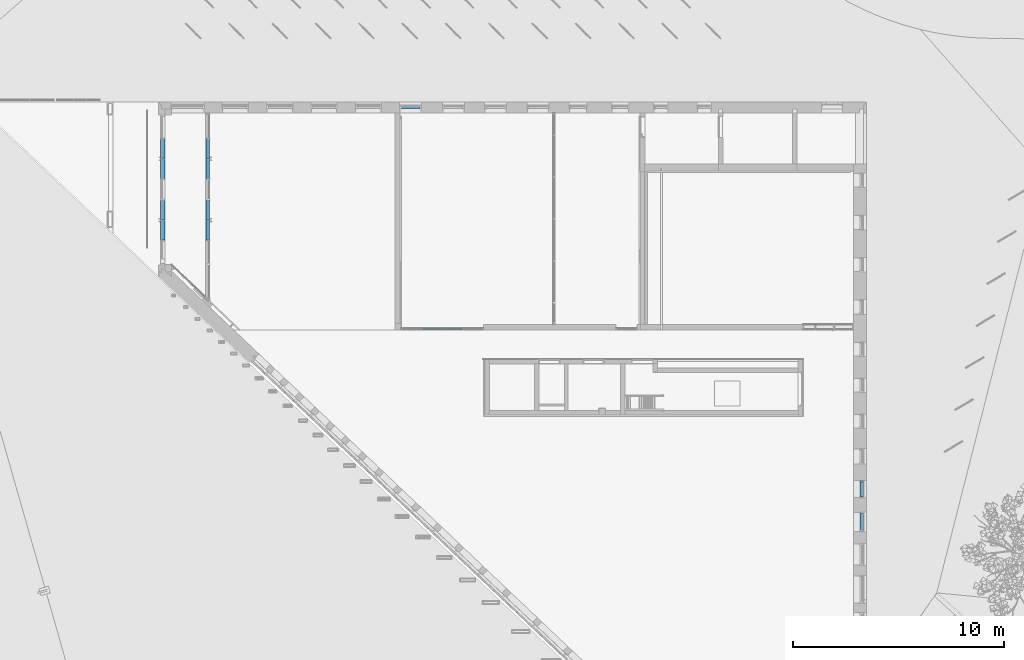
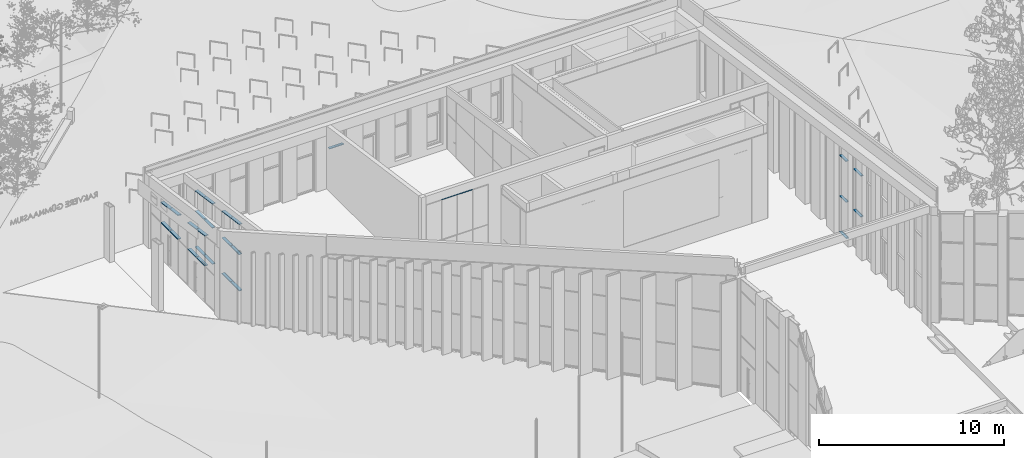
# One storey, part 36 of 246: 28 members, 6 elements without a shape of their own.
"""IFC2X3 building model written with IfcOpenShell, lengths in millimetres."""

import ifcopenshell
import ifcopenshell.guid

model = None  # the IFC model being written
_history = None  # IfcOwnerHistory: only IFC2X3 demands one
_inside = {}  # id of a spatial element -> (the spatial element, [elements in it])
_under = {}  # id of a project, library or spatial element -> (it, [spatial elements below it])
_declared = {}  # id of a project -> (the project, [libraries it declares])
_typed = {}  # id of a type object -> (the type object, [elements of that type])
_made_of = {}  # id of a material, layer set ... -> (it, [elements and type objects made of it])


def new_model(schema):
    """Start an empty IFC model of exactly this schema.

    Asked for "IFC4X3", IfcOpenShell would pick the latest addendum, in which some entities
    have other attributes; the version numbers below select the first issue.
    IFC2X3 requires an IfcOwnerHistory on every rooted entity: one is made here for all.
    """
    global model, _history
    if schema == "IFC4X3":
        model = ifcopenshell.file(schema_version=(4, 3, 0, 0))
    else:
        model = ifcopenshell.file(schema=schema)
    _inside.clear()
    _under.clear()
    _declared.clear()
    _typed.clear()
    _made_of.clear()
    _history = None
    if model.schema == "IFC2X3":
        org = make("IfcOrganization", Name="unknown")
        user = make(
            "IfcPersonAndOrganization",
            ThePerson=make("IfcPerson", FamilyName="unknown"),
            TheOrganization=org,
        )
        app = make(
            "IfcApplication",
            ApplicationDeveloper=org,
            Version="unknown",
            ApplicationFullName="unknown",
            ApplicationIdentifier="unknown",
        )
        _history = make(
            "IfcOwnerHistory",
            OwningUser=user,
            OwningApplication=app,
            ChangeAction="ADDED",
            CreationDate=0,
        )
    return model


def make(cls, **values):
    """One entity of the class cls with the attributes given. An attribute that is None is left unset."""
    return model.create_entity(
        cls, **{name: value for name, value in values.items() if value is not None}
    )


def entity(cls, *values):
    """Any entity or typed value of the class cls, its attributes in the order of the schema. None: left unset."""
    e = model.create_entity(cls)
    for i, value in enumerate(values):
        if value is not None:
            e[i] = value
    return e


def rooted(cls, **values):
    """An entity with a GlobalId (a new one), such as an element, a storey or a relation."""
    return make(cls, GlobalId=ifcopenshell.guid.new(), OwnerHistory=_history, **values)


def si_unit(unit_type, name, prefix=None):
    """IfcSIUnit, for example si_unit("LENGTHUNIT", "METRE", prefix="MILLI")."""
    return make("IfcSIUnit", UnitType=unit_type, Prefix=prefix, Name=name)


def converted_unit(unit_type, name, factor, base, dimensions=None, offset=None):
    """IfcConversionBasedUnit, such as the inch: factor (a typed value) times the base unit."""
    return make(
        "IfcConversionBasedUnit"
        if offset is None
        else "IfcConversionBasedUnitWithOffset",
        ConversionOffset=offset,
        Dimensions=None
        if dimensions is None
        else entity("IfcDimensionalExponents", *dimensions),
        UnitType=unit_type,
        Name=name,
        ConversionFactor=make(
            "IfcMeasureWithUnit", ValueComponent=factor, UnitComponent=base
        ),
    )


def derived_unit(unit_type, elements):
    """IfcDerivedUnit: a product of units, each with its exponent."""
    return make(
        "IfcDerivedUnit",
        Elements=[
            make("IfcDerivedUnitElement", Unit=unit, Exponent=power)
            for unit, power in elements
        ],
        UnitType=unit_type,
    )


def money_unit(currency):
    """IfcMonetaryUnit."""
    return make("IfcMonetaryUnit", Currency=currency)


def assignment(units):
    """IfcUnitAssignment: the units of a project."""
    return None if units is None else make("IfcUnitAssignment", Units=units)


def point(xyz):
    """IfcCartesianPoint."""
    return None if xyz is None else make("IfcCartesianPoint", Coordinates=xyz)


def direction(xyz):
    """IfcDirection."""
    return None if xyz is None else make("IfcDirection", DirectionRatios=xyz)


def frame(location, z_axis=None, x_axis=None):
    """IfcAxis2Placement3D, a coordinate frame: its origin and axes. An axis left out is left unset."""
    return make(
        "IfcAxis2Placement3D",
        Location=point(location),
        Axis=direction(z_axis),
        RefDirection=direction(x_axis),
    )


def origin_with_axes():
    """The frame at (0, 0, 0) with the z axis (0, 0, 1) and the x axis (1, 0, 0) written out."""
    return frame((0.0, 0.0, 0.0), z_axis=(0.0, 0.0, 1.0), x_axis=(1.0, 0.0, 0.0))


def place(relative_to, where):
    """IfcLocalPlacement: puts the frame where relative to a parent placement (None: the world)."""
    return make(
        "IfcLocalPlacement", PlacementRelTo=relative_to, RelativePlacement=where
    )


def context(
    kind, dimensions, precision=None, world=None, true_north=None, identifier=None
):
    """IfcGeometricRepresentationContext, for example the 3D "Model" context."""
    return make(
        "IfcGeometricRepresentationContext",
        ContextIdentifier=identifier,
        ContextType=kind,
        CoordinateSpaceDimension=dimensions,
        Precision=precision,
        WorldCoordinateSystem=world,
        TrueNorth=true_north,
    )


def subcontext(parent, identifier, kind, view, scale=None):
    """IfcGeometricRepresentationSubContext, for example "Body" below "Model"."""
    return make(
        "IfcGeometricRepresentationSubContext",
        ContextIdentifier=identifier,
        ContextType=kind,
        ParentContext=parent,
        TargetScale=scale,
        TargetView=view,
    )


def project(units=None, contexts=None):
    """IfcProject with its units and contexts."""
    return rooted(
        "IfcProject",
        Name="project",
        RepresentationContexts=contexts,
        UnitsInContext=assignment(units),
    )


def spatial(cls, under=None, at=None, **own):
    """A site, building, storey or space (cls), placed at a placement, below another one or the project."""
    s = rooted(cls, ObjectPlacement=at, **own)
    if under is not None:
        _under.setdefault(under.id(), (under, []))[1].append(s)
    return s


def faces_of(points, faces, orient=None, outer=None):
    """IfcFace entities. A face is a list of loops; a loop is a list of indices into points, from 0.

    orient and outer hold one flag for each loop. By default every Orientation is true, the
    first loop of a face is its IfcFaceOuterBound and the others are IfcFaceBound.
    """
    made = []
    for i, loops in enumerate(faces):
        bounds = []
        for j, loop in enumerate(loops):
            is_outer = j == 0 if outer is None else outer[i][j]
            bounds.append(
                make(
                    "IfcFaceOuterBound" if is_outer else "IfcFaceBound",
                    Bound=make("IfcPolyLoop", Polygon=[points[k] for k in loop]),
                    Orientation=True if orient is None else orient[i][j],
                )
            )
        made.append(make("IfcFace", Bounds=bounds))
    return made


def faceted_brep(points, faces, orient=None, outer=None, voids=None):
    """IfcFacetedBrep: a solid bounded by flat faces; with voids (closed shells), ...WithVoids."""
    shared = [point(p) for p in points]
    hull = make("IfcClosedShell", CfsFaces=faces_of(shared, faces, orient, outer))
    if voids is None:
        return make("IfcFacetedBrep", Outer=hull)
    return make(
        "IfcFacetedBrepWithVoids",
        Outer=hull,
        Voids=[
            make(cls, CfsFaces=faces_of(shared, fs, o, b)) for cls, fs, o, b in voids
        ],
    )


def shape(context_of_items, identifier, shape_type, items):
    """IfcShapeRepresentation: the items that make up one representation, for example the "Body"."""
    return make(
        "IfcShapeRepresentation",
        ContextOfItems=context_of_items,
        RepresentationIdentifier=identifier,
        RepresentationType=shape_type,
        Items=items,
    )


def source(mapping_origin, context_of_items, identifier, shape_type, items):
    """IfcRepresentationMap: a shape defined once, which mapped items show again and again."""
    return make(
        "IfcRepresentationMap",
        MappingOrigin=mapping_origin,
        MappedRepresentation=shape(context_of_items, identifier, shape_type, items),
    )


def transform(
    local_origin,
    x_axis=None,
    y_axis=None,
    z_axis=None,
    scale=None,
    scale2=None,
    scale3=None,
    uniform=True,
):
    """IfcCartesianTransformationOperator3D, or its non-uniform kind. x_axis, y_axis, z_axis: its Axis1, 2, 3."""
    if uniform:
        return make(
            "IfcCartesianTransformationOperator3D",
            Axis1=direction(x_axis),
            Axis2=direction(y_axis),
            LocalOrigin=point(local_origin),
            Scale=scale,
            Axis3=direction(z_axis),
        )
    return make(
        "IfcCartesianTransformationOperator3DnonUniform",
        Axis1=direction(x_axis),
        Axis2=direction(y_axis),
        LocalOrigin=point(local_origin),
        Scale=scale,
        Axis3=direction(z_axis),
        Scale2=scale2,
        Scale3=scale3,
    )


def mapped(mapping_source, mapping_target):
    """IfcMappedItem: shows the shape of a source again, moved by a transform."""
    return make(
        "IfcMappedItem", MappingSource=mapping_source, MappingTarget=mapping_target
    )


def material(Name=None, Category=None):
    """IfcMaterial."""
    return make("IfcMaterial", Name=Name, Category=Category)


def material_list(materials):
    """IfcMaterialList."""
    return make("IfcMaterialList", Materials=materials)


def made_of(thing, what):
    """Note that an element or type object is made of a material, layer set ...; save() writes the relation."""
    if what is not None:
        _made_of.setdefault(what.id(), (what, []))[1].append(thing)
    return thing


def type_object(cls, material=None, **own):
    """A type object (cls), such as IfcWallType, which elements share."""
    return made_of(rooted(cls, **own), material)


def element(
    cls,
    number,
    at=None,
    inside=None,
    cuts=None,
    type_object=None,
    material=None,
    context=None,
    identifier="Body",
    shape_type=None,
    held_by="IfcProductDefinitionShape",
    body=None,
    shapes=None,
    **own,
):
    """One element of the class cls, such as IfcWall. Its Tag is "e" and its number.

    at: its placement. inside: the storey or other place that contains it. cuts: it is an
    opening in that element (IfcRelVoidsElement). A single representation is given by context,
    identifier, shape_type and body (its items); several are given by shapes. held_by: the class
    of the entity that holds the representations. save() writes the other relations.
    """
    e = rooted(cls, Tag="e%d" % number, ObjectPlacement=at, **own)
    if body is not None:
        shapes = [shape(context, identifier, shape_type, body)]
    if shapes is not None:
        e.Representation = make(held_by, Representations=shapes)
    if inside is not None:
        _inside.setdefault(inside.id(), (inside, []))[1].append(e)
    if cuts is not None:
        rooted(
            "IfcRelVoidsElement", RelatingBuildingElement=cuts, RelatedOpeningElement=e
        )
    if type_object is not None:
        _typed.setdefault(type_object.id(), (type_object, []))[1].append(e)
    return made_of(e, material)


def aggregate(whole, parts):
    """IfcRelAggregates: a whole, such as a stair, and the parts it consists of."""
    return rooted("IfcRelAggregates", RelatingObject=whole, RelatedObjects=parts)


def save(model, path):
    """Write the relations noted so far, then the file.

    IfcRelAggregates (storeys below a building ...), IfcRelContainedInSpatialStructure (elements
    in a storey), IfcRelDefinesByType, IfcRelAssociatesMaterial and IfcRelDeclares: one each for
    every whole, place, type object, material and project.
    """
    for whole, parts in _under.values():
        aggregate(whole, parts)
    for where, things in _inside.values():
        rooted(
            "IfcRelContainedInSpatialStructure",
            RelatedElements=things,
            RelatingStructure=where,
        )
    for kind, things in _typed.values():
        rooted("IfcRelDefinesByType", RelatedObjects=things, RelatingType=kind)
    for what, things in _made_of.values():
        rooted("IfcRelAssociatesMaterial", RelatedObjects=things, RelatingMaterial=what)
    for by, libraries in _declared.values():
        rooted("IfcRelDeclares", RelatingContext=by, RelatedDefinitions=libraries)
    model.write(path)


model = new_model("IFC2X3")

# Units and contexts
model_context = context("Model", 3, precision=0.01, world=origin_with_axes(), true_north=direction((0.0, 1.0)))
body_context = subcontext(model_context, "Body", "Model", "MODEL_VIEW")
ifc_project = project(units=[si_unit("LENGTHUNIT", "METRE", prefix="MILLI"), si_unit("AREAUNIT", "SQUARE_METRE"), si_unit("VOLUMEUNIT", "CUBIC_METRE"), converted_unit("PLANEANGLEUNIT", "DEGREE", entity("IfcPlaneAngleMeasure", 0.0174532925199), si_unit("PLANEANGLEUNIT", "RADIAN"), dimensions=[0, 0, 0, 0, 0, 0, 0]), si_unit("SOLIDANGLEUNIT", "STERADIAN"), money_unit("EUR"), converted_unit("TIMEUNIT", "Year", entity("IfcTimeMeasure", 31556926.0), si_unit("TIMEUNIT", "SECOND"), dimensions=[0, 0, 1, 0, 0, 0, 0]), si_unit("MASSUNIT", "GRAM", prefix="KILO"), si_unit("THERMODYNAMICTEMPERATUREUNIT", "DEGREE_CELSIUS"), si_unit("LUMINOUSINTENSITYUNIT", "LUMEN"), si_unit("ENERGYUNIT", "JOULE", prefix="MEGA"), derived_unit("THERMALCONDUCTANCEUNIT", [(si_unit("POWERUNIT", "WATT"), 1), (si_unit("LENGTHUNIT", "METRE"), -1), (si_unit("THERMODYNAMICTEMPERATUREUNIT", "KELVIN"), -1)]), derived_unit("SPECIFICHEATCAPACITYUNIT", [(si_unit("ENERGYUNIT", "JOULE"), 1), (si_unit("MASSUNIT", "GRAM", prefix="KILO"), -1), (si_unit("THERMODYNAMICTEMPERATUREUNIT", "KELVIN"), -1)]), derived_unit("MASSDENSITYUNIT", [(si_unit("MASSUNIT", "GRAM", prefix="KILO"), 1), (si_unit("VOLUMEUNIT", "CUBIC_METRE"), -1)])], contexts=[model_context])

# Site, building, storey
site_placement = place(None, origin_with_axes())
site = spatial("IfcSite", under=ifc_project, at=site_placement, Name="L.Koidula tn 11b", CompositionType="ELEMENT")
building_placement = place(site_placement, origin_with_axes())
building = spatial("IfcBuilding", under=site, at=building_placement, Name="Rakvere Riigigümnaasium", CompositionType="ELEMENT")
storey_placement = place(building_placement, origin_with_axes())
storey = spatial("IfcBuildingStorey", under=building, at=storey_placement, Name="1.korrus 0,00", CompositionType="ELEMENT", Elevation=0.0)

# Curtain wall, members
curtain_wall_type = type_object("IfcCurtainWallType", Name="Curtain Wall Type", PredefinedType="NOTDEFINED")
curtain_wall_1_placement = place(storey_placement, frame((47433.9999935, 53800.4459212, -2.62174737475e-05), z_axis=(0.0, 0.0, 1.0), x_axis=(1.0, 0.0, 0.0)))
curtain_wall_1 = element("IfcCurtainWall", 1, at=curtain_wall_1_placement, inside=storey, type_object=curtain_wall_type, Name="KLF-07-06")
ifc_material_1 = material(Name="Alumiiniumprofiil (RAL 7021)")
member_type_1 = type_object("IfcMemberType", Name="Transom Frame 50 x 170", PredefinedType="MULLION")
shared_shape_1 = source(origin_with_axes(), body_context, "Body", "Brep", [
    faceted_brep([(12.0, -26.0, 750.000123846), (12.0, 26.0, 750.000123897), (25.0, 26.0, 750.000123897), (25.0, 46.0, 750.000123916), (-25.0, 46.0, 750.000123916), (-25.0, 26.0, 750.000123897), (-12.0, 26.0, 750.000123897), (-12.0, -26.0, 750.000123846), (-25.0, -26.0, 750.000123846), (-25.0, -124.0, 750.000123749), (25.0, -124.0, 750.000123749), (25.0, -26.0, 750.000123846), (12.0, -26.0, 50.0), (12.0, 26.0, 50.0), (25.0, 26.0, 50.0), (25.0, 46.0, 50.0), (-25.0, 46.0, 50.0), (-25.0, 26.0, 50.0), (-12.0, 26.0, 50.0), (-12.0, -26.0, 50.0), (-25.0, -26.0, 50.0), (-25.0, -124.0, 50.0), (25.0, -124.0, 50.0), (25.0, -26.0, 50.0)], [[[0, 1, 2, 3, 4, 5, 6, 7, 8, 9, 10, 11]], [[0, 12, 13, 1]], [[1, 13, 14, 2]], [[14, 15, 3, 2]], [[4, 3, 15, 16]], [[17, 5, 4, 16]], [[5, 17, 18, 6]], [[7, 6, 18, 19]], [[8, 7, 19, 20]], [[8, 20, 21, 9]], [[10, 9, 21, 22]], [[11, 10, 22, 23]], [[11, 23, 12, 0]], [[13, 12, 23, 22, 21, 20, 19, 18, 17, 16, 15, 14]]]),
])
member_1_placement = place(curtain_wall_1_placement, frame((0.0, 399.99989685, 5100.00002622), z_axis=(0.0, -1.0, 0.0), x_axis=(0.0, 0.0, 1.0)))
member_1 = element("IfcMember", 2, at=member_1_placement, type_object=member_type_1, material=ifc_material_1, Name="KLF-07-20-Profiilid", ObjectType="MULLION", context=body_context, shape_type="MappedRepresentation", body=[
    mapped(shared_shape_1, transform((0.0, 0.0, 0.0), x_axis=(-1.0, 0.0, 0.0), y_axis=(0.0, -1.0, 0.0), z_axis=(0.0, 0.0, 1.0))),
])
member_2_placement = place(curtain_wall_1_placement, frame((0.0, 399.999988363, 2400.00002622), z_axis=(0.0, -1.0, 0.0), x_axis=(0.0, 0.0, 1.0)))
member_2 = element("IfcMember", 3, at=member_2_placement, type_object=member_type_1, material=ifc_material_1, Name="KLF-07-21-Profiilid", ObjectType="MULLION", context=body_context, shape_type="MappedRepresentation", body=[
    mapped(shared_shape_1, transform((0.0, 0.0, 0.0), x_axis=(-1.0, 0.0, 0.0), y_axis=(0.0, -1.0, 0.0), z_axis=(0.0, 0.0, 1.0))),
])
member_type_2 = type_object("IfcMemberType", Name="Boundary Frame 50 x 170", PredefinedType="MULLION")
shared_shape_2 = source(origin_with_axes(), body_context, "Body", "Brep", [
    faceted_brep([(-37.0, -26.0, 763.000114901), (-50.0, -26.0, 750.000115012), (-50.0, -124.0, 750.000115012), (0.0, -124.0, 800.000114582), (0.0, 46.0, 800.000114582), (-50.0, 46.0, 750.000115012), (-50.0, 26.0, 750.000115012), (-37.0, 26.0, 763.000114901), (-37.0, -26.0, 37.0), (-50.0, -26.0, 50.0), (-50.0, -124.0, 50.0), (0.0, -124.0, 0.0), (0.0, 46.0, 0.0), (-50.0, 46.0, 50.0), (-50.0, 26.0, 50.0), (-37.0, 26.0, 37.0)], [[[0, 1, 2, 3, 4, 5, 6, 7]], [[0, 8, 9, 1]], [[9, 10, 2, 1]], [[2, 10, 11, 3]], [[3, 11, 12, 4]], [[4, 12, 13, 5]], [[6, 5, 13, 14]], [[14, 15, 7, 6]], [[7, 15, 8, 0]], [[8, 15, 14, 13, 12, 11, 10, 9]]]),
])
member_3_placement = place(curtain_wall_1_placement, frame((0.0, 400.000079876, 0.0), z_axis=(0.0, -1.0, 0.0), x_axis=(0.0, 0.0, 1.0)))
member_3 = element("IfcMember", 4, at=member_3_placement, type_object=member_type_2, material=ifc_material_1, Name="KLF-07-74-Profiilid", ObjectType="MULLION", context=body_context, shape_type="MappedRepresentation", body=[
    mapped(shared_shape_2, transform((0.0, 0.0, 0.0), x_axis=(-1.0, 0.0, 0.0), y_axis=(0.0, -1.0, 0.0), z_axis=(0.0, 0.0, 1.0))),
])
aggregate(curtain_wall_1, [member_1, member_2, member_3])

# Curtain wall, member
curtain_wall_2_placement = place(storey_placement, frame((26049.5354659, 71934.4519938, 100.0), z_axis=(0.0, 0.0, 1.0), x_axis=(1.0, 0.0, 0.0)))
curtain_wall_2 = element("IfcCurtainWall", 5, at=curtain_wall_2_placement, inside=storey, type_object=curtain_wall_type, Name="KLF-08-03")
shared_shape_3 = source(origin_with_axes(), body_context, "Body", "Brep", [
    faceted_brep([(12.0, -26.0, 949.999979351), (12.0, 26.0, 949.999981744), (25.0, 26.0, 949.999981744), (25.0, 46.0, 949.999982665), (-25.0, 46.0, 949.999982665), (-25.0, 26.0, 949.999981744), (-12.0, 26.0, 949.999981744), (-12.0, -26.0, 949.999979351), (-25.0, -26.0, 949.999979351), (-25.0, -124.0, 949.999974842), (25.0, -124.0, 949.999974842), (25.0, -26.0, 949.999979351), (12.0, -26.0, 50.0), (12.0, 26.0, 50.0), (25.0, 26.0, 50.0), (25.0, 46.0, 50.0), (-25.0, 46.0, 50.0), (-25.0, 26.0, 50.0), (-12.0, 26.0, 50.0), (-12.0, -26.0, 50.0), (-25.0, -26.0, 50.0), (-25.0, -124.0, 50.0), (25.0, -124.0, 50.0), (25.0, -26.0, 50.0)], [[[0, 1, 2, 3, 4, 5, 6, 7, 8, 9, 10, 11]], [[0, 12, 13, 1]], [[1, 13, 14, 2]], [[14, 15, 3, 2]], [[4, 3, 15, 16]], [[17, 5, 4, 16]], [[5, 17, 18, 6]], [[7, 6, 18, 19]], [[8, 7, 19, 20]], [[8, 20, 21, 9]], [[10, 9, 21, 22]], [[11, 10, 22, 23]], [[11, 23, 12, 0]], [[13, 12, 23, 22, 21, 20, 19, 18, 17, 16, 15, 14]]]),
])
member_4_placement = place(curtain_wall_2_placement, frame((-500.000038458, 0.0, 2300.00007713), z_axis=(1.0, 0.0, 0.0), x_axis=(0.0, 0.0, 1.0)))
member_4 = element("IfcMember", 6, at=member_4_placement, type_object=member_type_1, material=ifc_material_1, Name="KLF-08-42-Profiilid", ObjectType="MULLION", context=body_context, shape_type="MappedRepresentation", body=[
    mapped(shared_shape_3, transform((0.0, 0.0, 0.0), x_axis=(-1.0, 0.0, 0.0), y_axis=(0.0, -1.0, 0.0), z_axis=(0.0, 0.0, 1.0))),
])
aggregate(curtain_wall_2, [member_4])

# Curtain wall, members
curtain_wall_3_placement = place(storey_placement, frame((14260.0344055, 70945.4519938, -0.000165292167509), z_axis=(0.0, 0.0, 1.0), x_axis=(1.0, 0.0, 0.0)))
curtain_wall_3 = element("IfcCurtainWall", 7, at=curtain_wall_3_placement, inside=storey, type_object=curtain_wall_type, Name="KLF-01A")
member_type_3 = type_object("IfcMemberType", Name="Transom Frame 50 x 208", PredefinedType="MULLION")
shared_shape_4 = source(origin_with_axes(), body_context, "Body", "Brep", [
    faceted_brep([(-12.0, -27.0, 925.0), (-25.0, -27.0, 925.0), (-25.0, -160.0, 925.0), (25.0, -160.0, 925.0), (25.0, -27.0, 925.0), (12.0, -27.0, 925.0), (12.0, 27.0, 925.0), (25.0, 27.0, 925.0), (25.0, 48.0, 925.0), (-25.0, 48.0, 925.0), (-25.0, 27.0, 925.0), (-12.0, 27.0, 925.0), (-12.0, -27.0, 25.0), (-25.0, -27.0, 25.0), (-25.0, -160.0, 25.0), (25.0, -160.0, 25.0), (25.0, -27.0, 25.0), (12.0, -27.0, 25.0), (12.0, 27.0, 25.0), (25.0, 27.0, 25.0), (25.0, 48.0, 25.0), (-25.0, 48.0, 25.0), (-25.0, 27.0, 25.0), (-12.0, 27.0, 25.0)], [[[0, 1, 2, 3, 4, 5, 6, 7, 8, 9, 10, 11]], [[1, 0, 12, 13]], [[1, 13, 14, 2]], [[2, 14, 15, 3]], [[4, 3, 15, 16]], [[4, 16, 17, 5]], [[5, 17, 18, 6]], [[7, 6, 18, 19]], [[19, 20, 8, 7]], [[8, 20, 21, 9]], [[22, 10, 9, 21]], [[11, 10, 22, 23]], [[0, 11, 23, 12]], [[23, 22, 21, 20, 19, 18, 17, 16, 15, 14, 13, 12]]]),
])
member_5_placement = place(curtain_wall_3_placement, frame((0.0, -1505.0, 2400.00026018), z_axis=(0.0, -1.0, 0.0), x_axis=(0.0, 0.0, 1.0)))
member_5 = element("IfcMember", 8, at=member_5_placement, type_object=member_type_3, material=ifc_material_1, Name="KLF-01 Profiilid", ObjectType="MULLION", context=body_context, shape_type="MappedRepresentation", body=[
    mapped(shared_shape_4, transform((0.0, 0.0, 0.0))),
])
member_6_placement = place(curtain_wall_3_placement, frame((0.0, -555.0, 2400.00026018), z_axis=(0.0, -1.0, 0.0), x_axis=(0.0, 0.0, 1.0)))
member_6 = element("IfcMember", 9, at=member_6_placement, type_object=member_type_3, material=ifc_material_1, Name="KLF-01 Profiilid", ObjectType="MULLION", context=body_context, shape_type="MappedRepresentation", body=[
    mapped(shared_shape_4, transform((0.0, 0.0, 0.0))),
])
member_7_placement = place(curtain_wall_3_placement, frame((0.0, -3460.0, 2400.00026018), z_axis=(0.0, -1.0, 0.0), x_axis=(0.0, 0.0, 1.0)))
member_7 = element("IfcMember", 10, at=member_7_placement, type_object=member_type_3, material=ifc_material_1, Name="KLF-01 Profiilid", ObjectType="MULLION", context=body_context, shape_type="MappedRepresentation", body=[
    mapped(shared_shape_4, transform((0.0, 0.0, 0.0))),
])
member_8_placement = place(curtain_wall_3_placement, frame((0.0, -4410.0, 2400.00026018), z_axis=(0.0, -1.0, 0.0), x_axis=(0.0, 0.0, 1.0)))
member_8 = element("IfcMember", 11, at=member_8_placement, type_object=member_type_3, material=ifc_material_1, Name="KLF-01 Profiilid", ObjectType="MULLION", context=body_context, shape_type="MappedRepresentation", body=[
    mapped(shared_shape_4, transform((0.0, 0.0, 0.0))),
])
member_type_4 = type_object("IfcMemberType", Name="Boundary Frame 50 x 208", PredefinedType="MULLION")
shared_shape_5 = source(origin_with_axes(), body_context, "Body", "Brep", [
    faceted_brep([(37.0, -27.0, 959.574226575), (37.0, 27.0, 959.574226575), (50.0, 27.0, 959.574226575), (50.0, 48.0, 959.574226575), (0.0, 48.0, 959.574226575), (0.0, -160.0, 959.574226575), (50.0, -160.0, 959.574226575), (50.0, -27.0, 959.574226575), (37.0, -27.0, -2.71931832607e-06), (37.0, 27.0, -2.71931832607e-06), (50.0, 27.0, -2.71931832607e-06), (50.0, 48.0, -2.71931832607e-06), (0.0, 48.0, -2.71931832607e-06), (0.0, -160.0, -2.71931832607e-06), (50.0, -160.0, -2.71931832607e-06), (50.0, -27.0, -2.71931832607e-06)], [[[0, 1, 2, 3, 4, 5, 6, 7]], [[1, 0, 8, 9]], [[10, 2, 1, 9]], [[2, 10, 11, 3]], [[12, 4, 3, 11]], [[13, 5, 4, 12]], [[14, 6, 5, 13]], [[15, 7, 6, 14]], [[0, 7, 15, 8]], [[8, 15, 14, 13, 12, 11, 10, 9]]]),
])
member_9_placement = place(curtain_wall_3_placement, frame((0.0, -1505.0, 3880.86080331), z_axis=(0.0, 0.990022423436, -0.14090990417), x_axis=(0.0, -0.14090990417, -0.990022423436)))
member_9 = element("IfcMember", 12, at=member_9_placement, type_object=member_type_4, material=ifc_material_1, Name="KLF-58 Profiilid", ObjectType="MULLION", context=body_context, shape_type="MappedRepresentation", body=[
    mapped(shared_shape_5, transform((0.0, 0.0, 0.0))),
])
member_10_placement = place(curtain_wall_3_placement, frame((0.0, -2455.0, 4016.07421002), z_axis=(0.0, 0.990022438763, -0.140909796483), x_axis=(0.0, -0.140909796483, -0.990022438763)))
member_10 = element("IfcMember", 13, at=member_10_placement, type_object=member_type_4, material=ifc_material_1, Name="KLF-57 Profiilid", ObjectType="MULLION", context=body_context, shape_type="MappedRepresentation", body=[
    mapped(shared_shape_5, transform((0.0, 0.0, 0.0))),
])
member_11_placement = place(curtain_wall_3_placement, frame((0.0, -4410.0, 4294.32932561), z_axis=(0.0, 0.990022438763, -0.140909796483), x_axis=(0.0, -0.140909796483, -0.990022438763)))
member_11 = element("IfcMember", 14, at=member_11_placement, type_object=member_type_4, material=ifc_material_1, Name="KLF-55 Profiilid", ObjectType="MULLION", context=body_context, shape_type="MappedRepresentation", body=[
    mapped(shared_shape_5, transform((0.0, 0.0, 0.0))),
])
member_12_placement = place(curtain_wall_3_placement, frame((0.0, -5360.0, 4429.54283774), z_axis=(0.0, 0.990022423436, -0.14090990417), x_axis=(0.0, -0.14090990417, -0.990022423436)))
member_12 = element("IfcMember", 15, at=member_12_placement, type_object=member_type_4, material=ifc_material_1, Name="KLF-54 Profiilid", ObjectType="MULLION", context=body_context, shape_type="MappedRepresentation", body=[
    mapped(shared_shape_5, transform((0.0, 0.0, 0.0))),
])
aggregate(curtain_wall_3, [member_5, member_6, member_7, member_8, member_9, member_10, member_11, member_12])

curtain_wall_4_placement = place(storey_placement, frame((16510.0495753, 70995.4517615, -0.000456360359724), z_axis=(0.0, 0.0, 1.0), x_axis=(1.0, 0.0, 0.0)))
curtain_wall_4 = element("IfcCurtainWall", 16, at=curtain_wall_4_placement, inside=storey, type_object=curtain_wall_type, Name="KLF-01B")
member_type_5 = type_object("IfcMemberType", Name="Boundary Frame 50 x 188", PredefinedType="MULLION")
shared_shape_6 = source(origin_with_axes(), body_context, "Body", "Brep", [
    faceted_brep([(-37.0, -15.0, 950.0), (-50.0, -15.0, 950.0), (-50.0, -153.0, 950.0), (0.0, -153.0, 950.0), (0.0, 35.0, 950.0), (-50.0, 35.0, 950.0), (-50.0, 15.0, 950.0), (-37.0, 15.0, 950.0), (-37.0, -15.0, 0.0), (-50.0, -15.0, 0.0), (-50.0, -153.0, 0.0), (0.0, -153.0, 0.0), (0.0, 35.0, 0.0), (-50.0, 35.0, 0.0), (-50.0, 15.0, 0.0), (-37.0, 15.0, 0.0)], [[[0, 1, 2, 3, 4, 5, 6, 7]], [[0, 8, 9, 1]], [[9, 10, 2, 1]], [[10, 11, 3, 2]], [[11, 12, 4, 3]], [[12, 13, 5, 4]], [[6, 5, 13, 14]], [[14, 15, 7, 6]], [[7, 15, 8, 0]], [[8, 15, 14, 13, 12, 11, 10, 9]]]),
])
member_13_placement = place(curtain_wall_4_placement, frame((0.0, -604.999767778, 0.0), z_axis=(0.0, -1.0, 0.0), x_axis=(0.0, 0.0, 1.0)))
member_13 = element("IfcMember", 17, at=member_13_placement, type_object=member_type_5, material=ifc_material_1, Name="KLF-42 Profiilid", ObjectType="MULLION", context=body_context, shape_type="MappedRepresentation", body=[
    mapped(shared_shape_6, transform((0.0, 0.0, 0.0), x_axis=(-1.0, 0.0, 0.0), y_axis=(0.0, -1.0, 0.0), z_axis=(0.0, 0.0, 1.0))),
])
member_14_placement = place(curtain_wall_4_placement, frame((0.0, -1554.99976778, 0.0), z_axis=(0.0, -1.0, 0.0), x_axis=(0.0, 0.0, 1.0)))
member_14 = element("IfcMember", 18, at=member_14_placement, type_object=member_type_5, material=ifc_material_1, Name="KLF-43 Profiilid", ObjectType="MULLION", context=body_context, shape_type="MappedRepresentation", body=[
    mapped(shared_shape_6, transform((0.0, 0.0, 0.0), x_axis=(-1.0, 0.0, 0.0), y_axis=(0.0, -1.0, 0.0), z_axis=(0.0, 0.0, 1.0))),
])
member_15_placement = place(curtain_wall_4_placement, frame((0.0, -4459.99976778, 0.0), z_axis=(0.0, -1.0, 0.0), x_axis=(0.0, 0.0, 1.0)))
member_15 = element("IfcMember", 19, at=member_15_placement, type_object=member_type_5, material=ifc_material_1, Name="KLF-46 Profiilid", ObjectType="MULLION", context=body_context, shape_type="MappedRepresentation", body=[
    mapped(shared_shape_6, transform((0.0, 0.0, 0.0), x_axis=(-1.0, 0.0, 0.0), y_axis=(0.0, -1.0, 0.0), z_axis=(0.0, 0.0, 1.0))),
])
member_16_placement = place(curtain_wall_4_placement, frame((0.0, -3509.99976778, 0.0), z_axis=(0.0, -1.0, 0.0), x_axis=(0.0, 0.0, 1.0)))
member_16 = element("IfcMember", 20, at=member_16_placement, type_object=member_type_5, material=ifc_material_1, Name="KLF-45 Profiilid", ObjectType="MULLION", context=body_context, shape_type="MappedRepresentation", body=[
    mapped(shared_shape_6, transform((0.0, 0.0, 0.0), x_axis=(-1.0, 0.0, 0.0), y_axis=(0.0, -1.0, 0.0), z_axis=(0.0, 0.0, 1.0))),
])
member_type_6 = type_object("IfcMemberType", Name="Transom Frame 50 x 188", PredefinedType="MULLION")
shared_shape_7 = source(origin_with_axes(), body_context, "Body", "Brep", [
    faceted_brep([(12.0, -15.0, 925.0), (12.0, 15.0, 925.0), (25.0, 15.0, 925.0), (25.0, 35.0, 925.0), (-25.0, 35.0, 925.0), (-25.0, 15.0, 925.0), (-12.0, 15.0, 925.0), (-12.0, -15.0, 925.0), (-25.0, -15.0, 925.0), (-25.0, -153.0, 925.0), (25.0, -153.0, 925.0), (25.0, -15.0, 925.0), (12.0, -15.0, 25.0), (12.0, 15.0, 25.0), (25.0, 15.0, 25.0), (25.0, 35.0, 25.0), (-25.0, 35.0, 25.0), (-25.0, 15.0, 25.0), (-12.0, 15.0, 25.0), (-12.0, -15.0, 25.0), (-25.0, -15.0, 25.0), (-25.0, -153.0, 25.0), (25.0, -153.0, 25.0), (25.0, -15.0, 25.0)], [[[0, 1, 2, 3, 4, 5, 6, 7, 8, 9, 10, 11]], [[0, 12, 13, 1]], [[1, 13, 14, 2]], [[14, 15, 3, 2]], [[4, 3, 15, 16]], [[17, 5, 4, 16]], [[5, 17, 18, 6]], [[7, 6, 18, 19]], [[8, 7, 19, 20]], [[8, 20, 21, 9]], [[10, 9, 21, 22]], [[11, 10, 22, 23]], [[11, 23, 12, 0]], [[13, 12, 23, 22, 21, 20, 19, 18, 17, 16, 15, 14]]]),
])
member_17_placement = place(curtain_wall_4_placement, frame((0.0, -1554.99976778, 2400.00029107), z_axis=(0.0, -1.0, 0.0), x_axis=(0.0, 0.0, 1.0)))
member_17 = element("IfcMember", 21, at=member_17_placement, type_object=member_type_6, material=ifc_material_1, Name="KLF-01 Profiilid", ObjectType="MULLION", context=body_context, shape_type="MappedRepresentation", body=[
    mapped(shared_shape_7, transform((0.0, 0.0, 0.0), x_axis=(-1.0, 0.0, 0.0), y_axis=(0.0, -1.0, 0.0), z_axis=(0.0, 0.0, 1.0))),
])
member_18_placement = place(curtain_wall_4_placement, frame((0.0, -604.999767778, 2400.00029107), z_axis=(0.0, -1.0, 0.0), x_axis=(0.0, 0.0, 1.0)))
member_18 = element("IfcMember", 22, at=member_18_placement, type_object=member_type_6, material=ifc_material_1, Name="KLF-01 Profiilid", ObjectType="MULLION", context=body_context, shape_type="MappedRepresentation", body=[
    mapped(shared_shape_7, transform((0.0, 0.0, 0.0), x_axis=(-1.0, 0.0, 0.0), y_axis=(0.0, -1.0, 0.0), z_axis=(0.0, 0.0, 1.0))),
])
member_19_placement = place(curtain_wall_4_placement, frame((0.0, -3509.99976778, 2400.00029107), z_axis=(0.0, -1.0, 0.0), x_axis=(0.0, 0.0, 1.0)))
member_19 = element("IfcMember", 23, at=member_19_placement, type_object=member_type_6, material=ifc_material_1, Name="KLF-01 Profiilid", ObjectType="MULLION", context=body_context, shape_type="MappedRepresentation", body=[
    mapped(shared_shape_7, transform((0.0, 0.0, 0.0), x_axis=(-1.0, 0.0, 0.0), y_axis=(0.0, -1.0, 0.0), z_axis=(0.0, 0.0, 1.0))),
])
member_20_placement = place(curtain_wall_4_placement, frame((0.0, -4459.99976778, 2400.00029107), z_axis=(0.0, -1.0, 0.0), x_axis=(0.0, 0.0, 1.0)))
member_20 = element("IfcMember", 24, at=member_20_placement, type_object=member_type_6, material=ifc_material_1, Name="KLF-01 Profiilid", ObjectType="MULLION", context=body_context, shape_type="MappedRepresentation", body=[
    mapped(shared_shape_7, transform((0.0, 0.0, 0.0), x_axis=(-1.0, 0.0, 0.0), y_axis=(0.0, -1.0, 0.0), z_axis=(0.0, 0.0, 1.0))),
])
shared_shape_8 = source(origin_with_axes(), body_context, "Body", "Brep", [
    faceted_brep([(-37.0, -15.0, 959.573025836), (-50.0, -15.0, 959.573025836), (-50.0, -153.0, 959.573025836), (0.0, -153.0, 959.573025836), (0.0, 35.0, 959.573025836), (-50.0, 35.0, 959.573025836), (-50.0, 15.0, 959.573025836), (-37.0, 15.0, 959.573025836), (-37.0, -15.0, -5.28972421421e-07), (-50.0, -15.0, -5.28972476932e-07), (-50.0, -153.0, -5.28972476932e-07), (0.0, -153.0, -5.28972476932e-07), (0.0, 35.0, -5.28972476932e-07), (-50.0, 35.0, -5.28972476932e-07), (-50.0, 15.0, -5.28972476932e-07), (-37.0, 15.0, -5.28972421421e-07)], [[[0, 1, 2, 3, 4, 5, 6, 7]], [[0, 8, 9, 1]], [[9, 10, 2, 1]], [[10, 11, 3, 2]], [[11, 12, 4, 3]], [[12, 13, 5, 4]], [[6, 5, 13, 14]], [[14, 15, 7, 6]], [[7, 15, 8, 0]], [[8, 15, 14, 13, 12, 11, 10, 9]]]),
])
member_21_placement = place(curtain_wall_4_placement, frame((0.0, -1554.99976778, 3894.59036234), z_axis=(0.0, 0.990023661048, -0.140901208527), x_axis=(0.0, -0.140901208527, -0.990023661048)))
member_21 = element("IfcMember", 25, at=member_21_placement, type_object=member_type_5, material=ifc_material_1, Name="KLF-59 Profiilid", ObjectType="MULLION", context=body_context, shape_type="MappedRepresentation", body=[
    mapped(shared_shape_8, transform((0.0, 0.0, 0.0), x_axis=(-1.0, 0.0, 0.0), y_axis=(0.0, -1.0, 0.0), z_axis=(0.0, 0.0, 1.0))),
])
member_22_placement = place(curtain_wall_4_placement, frame((0.0, -2504.99976778, 4029.79534083), z_axis=(0.0, 0.99002366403, -0.140901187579), x_axis=(0.0, -0.140901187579, -0.99002366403)))
member_22 = element("IfcMember", 26, at=member_22_placement, type_object=member_type_5, material=ifc_material_1, Name="KLF-58 Profiilid", ObjectType="MULLION", context=body_context, shape_type="MappedRepresentation", body=[
    mapped(shared_shape_8, transform((0.0, 0.0, 0.0), x_axis=(-1.0, 0.0, 0.0), y_axis=(0.0, -1.0, 0.0), z_axis=(0.0, 0.0, 1.0))),
])
member_23_placement = place(curtain_wall_4_placement, frame((0.0, -4459.99976778, 4308.03302757), z_axis=(0.0, 0.99002366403, -0.140901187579), x_axis=(0.0, -0.140901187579, -0.99002366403)))
member_23 = element("IfcMember", 27, at=member_23_placement, type_object=member_type_5, material=ifc_material_1, Name="KLF-56 Profiilid", ObjectType="MULLION", context=body_context, shape_type="MappedRepresentation", body=[
    mapped(shared_shape_8, transform((0.0, 0.0, 0.0), x_axis=(-1.0, 0.0, 0.0), y_axis=(0.0, -1.0, 0.0), z_axis=(0.0, 0.0, 1.0))),
])
member_24_placement = place(curtain_wall_4_placement, frame((0.0, -5409.99976778, 4443.23813835), z_axis=(0.0, 0.990023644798, -0.140901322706), x_axis=(0.0, -0.140901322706, -0.990023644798)))
member_24 = element("IfcMember", 28, at=member_24_placement, type_object=member_type_5, material=ifc_material_1, Name="KLF-55 Profiilid", ObjectType="MULLION", context=body_context, shape_type="MappedRepresentation", body=[
    mapped(shared_shape_8, transform((0.0, 0.0, 0.0), x_axis=(-1.0, 0.0, 0.0), y_axis=(0.0, -1.0, 0.0), z_axis=(0.0, 0.0, 1.0))),
])
aggregate(curtain_wall_4, [member_13, member_14, member_17, member_18, member_19, member_15, member_16, member_20, member_21, member_22, member_23, member_24])

curtain_wall_5_placement = place(storey_placement, frame((47433.9999935, 52250.4459079, -7.88318499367e-05), z_axis=(0.0, 0.0, 1.0), x_axis=(1.0, 0.0, 0.0)))
curtain_wall_5 = element("IfcCurtainWall", 29, at=curtain_wall_5_placement, inside=storey, type_object=curtain_wall_type, Name="KLF-07-05")
shared_shape_9 = source(origin_with_axes(), body_context, "Body", "Brep", [
    faceted_brep([(12.0, -26.0, 849.999847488), (12.0, 26.0, 849.999847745), (25.0, 26.0, 849.999847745), (25.0, 46.0, 849.999847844), (-25.0, 46.0, 849.999847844), (-25.0, 26.0, 849.999847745), (-12.0, 26.0, 849.999847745), (-12.0, -26.0, 849.999847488), (-25.0, -26.0, 849.999847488), (-25.0, -124.0, 849.999847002), (25.0, -124.0, 849.999847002), (25.0, -26.0, 849.999847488), (12.0, -26.0, 50.0000009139), (12.0, 26.0, 49.9999990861), (25.0, 26.0, 49.9999990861), (25.0, 46.0, 49.999998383), (-25.0, 46.0, 49.999998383), (-25.0, 26.0, 49.9999990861), (-12.0, 26.0, 49.9999990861), (-12.0, -26.0, 50.0000009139), (-25.0, -26.0, 50.0000009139), (-25.0, -124.0, 50.0000043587), (25.0, -124.0, 50.0000043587), (25.0, -26.0, 50.0000009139)], [[[0, 1, 2, 3, 4, 5, 6, 7, 8, 9, 10, 11]], [[0, 12, 13, 1]], [[1, 13, 14, 2]], [[14, 15, 3, 2]], [[4, 3, 15, 16]], [[17, 5, 4, 16]], [[5, 17, 18, 6]], [[7, 6, 18, 19]], [[8, 7, 19, 20]], [[8, 20, 21, 9]], [[10, 9, 21, 22]], [[11, 10, 22, 23]], [[11, 23, 12, 0]], [[13, 12, 23, 22, 21, 20, 19, 18, 17, 16, 15, 14]]]),
])
member_25_placement = place(curtain_wall_5_placement, frame((0.0, 449.999903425, 5100.00007883), z_axis=(0.0, -1.0, 0.0), x_axis=(0.0, 0.0, 1.0)))
member_25 = element("IfcMember", 30, at=member_25_placement, type_object=member_type_1, material=ifc_material_1, Name="KLF-07-19-Profiilid", ObjectType="MULLION", context=body_context, shape_type="MappedRepresentation", body=[
    mapped(shared_shape_9, transform((0.0, 0.0, 0.0), x_axis=(-1.0, 0.0, 0.0), y_axis=(0.0, -1.0, 0.0), z_axis=(0.0, 0.0, 1.0))),
])
member_26_placement = place(curtain_wall_5_placement, frame((0.0, 449.999998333, 2400.00007883), z_axis=(0.0, -1.0, 0.0), x_axis=(0.0, 0.0, 1.0)))
member_26 = element("IfcMember", 31, at=member_26_placement, type_object=member_type_1, material=ifc_material_1, Name="KLF-07-20-Profiilid", ObjectType="MULLION", context=body_context, shape_type="MappedRepresentation", body=[
    mapped(shared_shape_9, transform((0.0, 0.0, 0.0), x_axis=(-1.0, 0.0, 0.0), y_axis=(0.0, -1.0, 0.0), z_axis=(0.0, 0.0, 1.0))),
])
aggregate(curtain_wall_5, [member_25, member_26])

curtain_wall_6_placement = place(storey_placement, frame((26572.4999007, 61372.4546496, 0.0), z_axis=(0.0, 0.0, 1.0), x_axis=(1.0, 0.0, 0.0)))
curtain_wall_6 = element("IfcCurtainWall", 32, at=curtain_wall_6_placement, inside=storey, type_object=curtain_wall_type, Name="SKLF-01")
ifc_material_2 = material(Name="Klaasvill")
ifc_material_3 = material(Name="Teras RAL7012")
ifc_material_list = material_list([ifc_material_2, ifc_material_3])
member_type_7 = type_object("IfcMemberType", Name="Boundary Frame 30 x 42", PredefinedType="MULLION")
shared_shape_10 = source(origin_with_axes(), body_context, "Body", "Brep", [
    faceted_brep([(-7.49999990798, 15.000000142, 0.0), (-7.49999990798, 15.000000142, 972.5), (-13.8499999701, 15.000000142, 972.5), (-13.8499999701, 15.000000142, 0.0), (-7.49999990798, 29.0161444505, 0.0), (-7.49999990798, 29.0161444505, 972.5), (-13.8499999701, 29.0161444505, 972.5), (-13.8499999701, 29.0161444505, 0.0)], [[[0, 1, 2, 3]], [[4, 5, 1, 0]], [[1, 5, 6, 2]], [[3, 2, 6, 7]], [[0, 3, 7, 4]], [[7, 6, 5, 4]]]),
    faceted_brep([(-24.987414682, 29.0161444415, 0.0), (-24.987414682, 29.0161444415, 972.5), (-25.004489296, 27.0307503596, 972.5), (-25.004489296, 27.0307503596, 0.0), (-28.5126239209, 29.0161444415, 0.0), (-28.5126239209, 29.0161444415, 972.5), (-28.7655837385, 28.0385325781, 972.5), (-28.4955493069, 27.0307503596, 972.5), (-27.75780152, 26.2930025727, 972.5), (-26.7500193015, 26.0229681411, 972.5), (-25.742237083, 26.2930025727, 972.5), (-25.742237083, 26.2930025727, 0.0), (-26.7500193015, 26.0229681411, 0.0), (-27.75780152, 26.2930025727, 0.0), (-28.4955493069, 27.0307503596, 0.0), (-28.7655837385, 28.0385325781, 0.0)], [[[0, 1, 2, 3]], [[4, 5, 1, 0]], [[1, 5, 6, 7, 8, 9, 10, 2]], [[3, 2, 10, 11]], [[0, 3, 11, 12, 13, 14, 15, 4]], [[15, 6, 5, 4]], [[14, 7, 6, 15]], [[13, 8, 7, 14]], [[12, 9, 8, 13]], [[11, 10, 9, 12]]]),
    faceted_brep([(-7.49999990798, -24.9999997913, 0.0), (-7.49999990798, -24.9999997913, 972.5), (-7.49999990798, -39.0161445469, 972.5), (-7.49999990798, -39.0161445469, 0.0), (-13.8499999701, -24.9999997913, 0.0), (-13.8499999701, -24.9999997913, 972.5), (-13.8499999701, -39.0161445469, 972.5), (-13.8499999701, -39.0161445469, 0.0)], [[[0, 1, 2, 3]], [[4, 5, 1, 0]], [[1, 5, 6, 2]], [[3, 2, 6, 7]], [[0, 3, 7, 4]], [[7, 6, 5, 4]]]),
    faceted_brep([(-25.004489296, -37.0307503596, 0.0), (-25.004489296, -37.0307503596, 972.5), (-24.987414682, -39.0161444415, 972.5), (-24.987414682, -39.0161444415, 0.0), (-25.742237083, -36.2930025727, 0.0), (-25.742237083, -36.2930025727, 972.5), (-26.7500193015, -36.0229681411, 972.5), (-27.75780152, -36.2930025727, 972.5), (-28.4955493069, -37.0307503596, 972.5), (-28.7655837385, -38.0385325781, 972.5), (-28.5126239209, -39.0161444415, 972.5), (-28.5126239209, -39.0161444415, 0.0), (-28.7655837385, -38.0385325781, 0.0), (-28.4955493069, -37.0307503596, 0.0), (-27.75780152, -36.2930025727, 0.0), (-26.7500193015, -36.0229681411, 0.0)], [[[0, 1, 2, 3]], [[4, 5, 1, 0]], [[1, 5, 6, 7, 8, 9, 10, 2]], [[3, 2, 10, 11]], [[0, 3, 11, 12, 13, 14, 15, 4]], [[15, 6, 5, 4]], [[14, 7, 6, 15]], [[13, 8, 7, 14]], [[12, 9, 8, 13]], [[11, 10, 9, 12]]]),
    faceted_brep([(0.0, -22.0000000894, 0.0), (0.0, -22.0000000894, 972.5), (-29.5999996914, -22.0000000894, 972.5), (-29.5999996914, -22.0000000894, 0.0), (0.0, 12.0000000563, 0.0), (0.0, 12.0000000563, 972.5), (-29.5999996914, 12.0000000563, 972.5), (-1.9999999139, 10.0000001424, 972.5), (-1.9999999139, -20.0000001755, 972.5), (-18.7999996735, -20.0000001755, 972.5), (-18.7999996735, 10.0000001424, 972.5), (-29.5999996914, 12.0000000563, 0.0), (-1.9999999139, 10.0000001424, 0.0), (-18.7999996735, 10.0000001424, 0.0), (-18.7999996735, -20.0000001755, 0.0), (-1.9999999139, -20.0000001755, 0.0)], [[[0, 1, 2, 3]], [[4, 5, 1, 0]], [[1, 5, 6, 2], [7, 8, 9, 10]], [[3, 2, 6, 11]], [[0, 3, 11, 4], [12, 13, 14, 15]], [[11, 6, 5, 4]], [[15, 8, 7, 12]], [[14, 9, 8, 15]], [[13, 10, 9, 14]], [[12, 7, 10, 13]]]),
    faceted_brep([(0.0, 12.0, 0.0), (0.0, 12.0, 972.5), (-29.5999996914, 12.0000000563, 972.5), (-29.5999996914, 12.0000000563, 0.0), (0.0, 32.0, 0.0), (0.0, 32.0, 972.5), (-30.0000193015, 32.0, 972.5), (-30.0000193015, 29.0161444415, 972.5), (-28.5126239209, 29.0161444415, 972.5), (-24.987414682, 29.0161444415, 972.5), (-13.8499999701, 29.0161444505, 972.5), (-7.49999999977, 29.0161444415, 972.5), (-7.49999999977, 15.0, 972.5), (-13.8499999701, 15.000000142, 972.5), (-30.0000193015, 15.0, 972.5), (-30.0000193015, 12.0, 972.5), (-30.0000193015, 12.0, 0.0), (-30.0000193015, 15.0, 0.0), (-13.8499999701, 15.000000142, 0.0), (-7.49999999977, 15.0, 0.0), (-7.49999999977, 29.0161444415, 0.0), (-13.8499999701, 29.0161444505, 0.0), (-24.987414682, 29.0161444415, 0.0), (-28.5126239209, 29.0161444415, 0.0), (-30.0000193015, 29.0161444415, 0.0), (-30.0000193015, 32.0, 0.0)], [[[0, 1, 2, 3]], [[4, 5, 1, 0]], [[1, 5, 6, 7, 8, 9, 10, 11, 12, 13, 14, 15, 2]], [[3, 2, 15, 16]], [[0, 3, 16, 17, 18, 19, 20, 21, 22, 23, 24, 25, 4]], [[25, 6, 5, 4]], [[24, 7, 6, 25]], [[23, 8, 7, 24]], [[22, 9, 8, 23]], [[21, 10, 9, 22]], [[20, 11, 10, 21]], [[19, 12, 11, 20]], [[18, 13, 12, 19]], [[17, 14, 13, 18]], [[16, 15, 14, 17]]]),
    faceted_brep([(0.0, -22.0, 0.0), (0.0, -22.0, 972.5), (0.0, -42.0, 972.5), (0.0, -42.0, 0.0), (-29.5999996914, -22.0000000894, 0.0), (-29.5999996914, -22.0000000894, 972.5), (-30.0000193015, -22.0, 972.5), (-30.0000193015, -25.0, 972.5), (-13.8499999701, -24.9999997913, 972.5), (-7.49999999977, -25.0, 972.5), (-7.49999999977, -39.0161444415, 972.5), (-13.8499999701, -39.0161445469, 972.5), (-24.987414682, -39.0161444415, 972.5), (-28.5126239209, -39.0161444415, 972.5), (-30.0000193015, -39.0161444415, 972.5), (-30.0000193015, -42.0, 972.5), (-30.0000193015, -42.0, 0.0), (-30.0000193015, -39.0161444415, 0.0), (-28.5126239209, -39.0161444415, 0.0), (-24.987414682, -39.0161444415, 0.0), (-13.8499999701, -39.0161445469, 0.0), (-7.49999999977, -39.0161444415, 0.0), (-7.49999999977, -25.0, 0.0), (-13.8499999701, -24.9999997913, 0.0), (-30.0000193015, -25.0, 0.0), (-30.0000193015, -22.0, 0.0)], [[[0, 1, 2, 3]], [[4, 5, 1, 0]], [[1, 5, 6, 7, 8, 9, 10, 11, 12, 13, 14, 15, 2]], [[3, 2, 15, 16]], [[0, 3, 16, 17, 18, 19, 20, 21, 22, 23, 24, 25, 4]], [[25, 6, 5, 4]], [[24, 7, 6, 25]], [[23, 8, 7, 24]], [[22, 9, 8, 23]], [[21, 10, 9, 22]], [[20, 11, 10, 21]], [[19, 12, 11, 20]], [[18, 13, 12, 19]], [[17, 14, 13, 18]], [[16, 15, 14, 17]]]),
])
member_27_placement = place(curtain_wall_6_placement, frame((0.0, 0.0, 5050.0), z_axis=(1.0, 0.0, 0.0), x_axis=(0.0, 0.0, 1.0)))
member_27 = element("IfcMember", 33, at=member_27_placement, type_object=member_type_7, material=ifc_material_list, Name="SKLF-72-raam", ObjectType="MULLION", context=body_context, shape_type="MappedRepresentation", body=[
    mapped(shared_shape_10, transform((0.0, 0.0, 0.0))),
])
member_28_placement = place(curtain_wall_6_placement, frame((972.5, 0.0, 5050.0), z_axis=(1.0, 0.0, 0.0), x_axis=(0.0, 0.0, 1.0)))
member_28 = element("IfcMember", 34, at=member_28_placement, type_object=member_type_7, material=ifc_material_list, Name="SKLF-71-raam", ObjectType="MULLION", context=body_context, shape_type="MappedRepresentation", body=[
    mapped(shared_shape_10, transform((0.0, 0.0, 0.0))),
])
aggregate(curtain_wall_6, [member_27, member_28])

save(model, "model.ifc")
